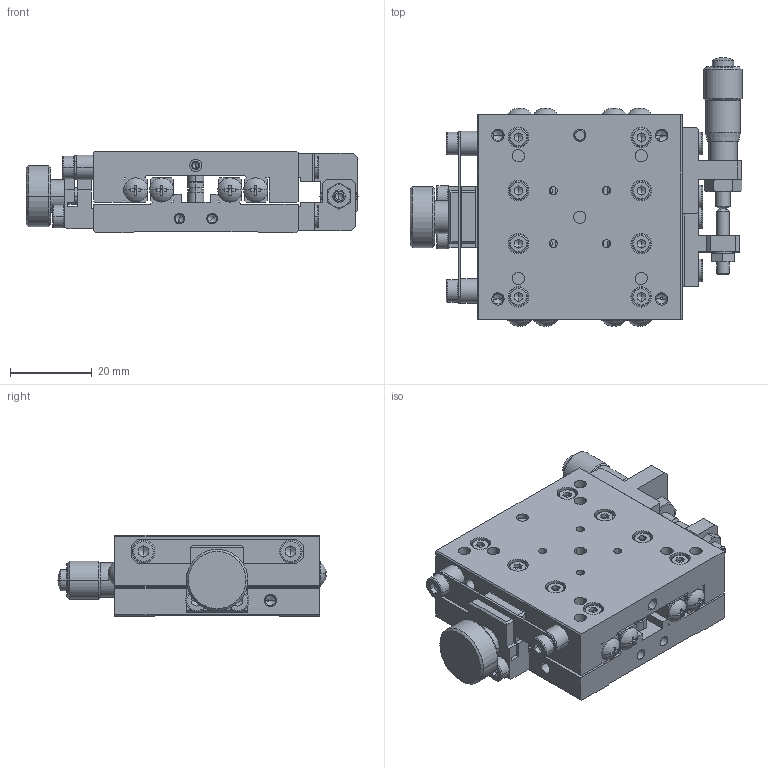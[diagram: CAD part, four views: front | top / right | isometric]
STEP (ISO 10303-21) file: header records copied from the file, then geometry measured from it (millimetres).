
FILE_DESCRIPTION (( 'STEP AP214' ), '1' );
FILE_NAME ('XM05A-S1Z.STEP', '2007-08-07T00:16:39', ( ' ' ), ( ' ' ), 'SwSTEP 2.0', 'SolidWorks 2006052', '' );
FILE_SCHEMA (( 'AUTOMOTIVE_DESIGN' ));
Length unit declared in the file: millimetre
Products named in the file (3): 001010-1023(3D)-10; XM05A-S1Z; 001010-1011(3D)-10
Assembly tree (2 placements, depth 2):
  XM05A-S1Z
    001010-1023(3D)-10
    001010-1011(3D)-10
Bounding box: 81.15 x 65.68 x 20 mm (x, y, z)
Volume: 48690.4 mm3; surface area: 30129.7 mm2
Topology: 2 solids, 49 shells, 1717 faces, 3915 edges, 2320 vertices
Faces by surface type: plane 813, cylinder 503, cone 285, torus 96, sphere 20
Entity records: 47830 total; most frequent: DIRECTION 8806, CARTESIAN_POINT 8557, ORIENTED_EDGE 7618, EDGE_CURVE 3809, AXIS2_PLACEMENT_3D 3399, VERTEX_POINT 2320, VECTOR 2008, LINE 2008
